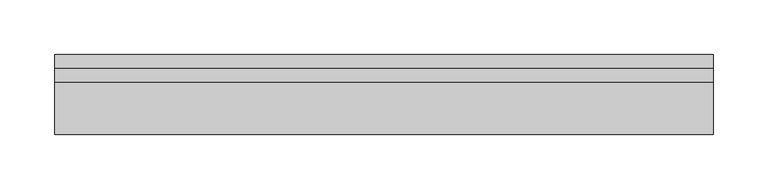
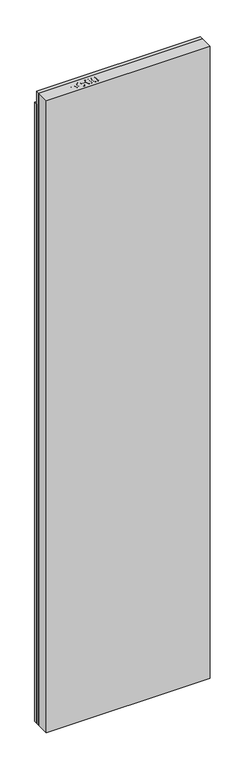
"""IFC4 building model written with IfcOpenShell, lengths in millimetres: proxy geometry, ParedeGeral_Blufab : Parede Geral - Largura 60 cm."""

from ifc_helpers import new_model, si_unit, origin, origin_with_axes, place, context, project, spatial, polyline, outline, extrude, source, transform, mapped, element, save


def generic_models_1475a357(model_context):
    return source(origin(), model_context, "Body", "SweptSolid", [
        extrude(outline(polyline([(600.0, -12.5), (0.0, -12.5), (0.0, 0.0), (600.0, 0.0), (600.0, -12.5)])), origin_with_axes(), (0.0, 0.0, 1.0), 2400.0),
        extrude(outline(polyline([(600.0, -25.0126803), (0.0, -25.0126803), (0.0, -12.5126803), (600.0, -12.5126803), (600.0, -25.0126803)])), origin_with_axes(), (0.0, 0.0, 1.0), 2450.0),
        extrude(outline(polyline([(600.0, -73.0), (0.0, -73.0), (0.0, -25.0126803), (600.0, -25.0126803), (600.0, -73.0)])), origin_with_axes(), (0.0, 0.0, 1.0), 2450.0),
        extrude(outline(polyline([(100.0857709, -33.3811762), (103.8528825, -33.3811762), (103.8528825, -45.624289), (111.5121857, -45.624289), (120.2640983, -48.2877547), (122.6884407, -54.799266), (121.7908086, -58.9085079), (119.4179697, -61.8221333), (115.7575439, -63.2311213), (111.2546683, -63.5180693), (100.0857709, -63.5180693), (100.0857709, -33.3811762)]), holes=[polyline([(103.8528825, -49.3914006), (103.8528825, -59.7509576), (111.6446232, -59.7509576), (115.4117348, -59.4934402), (117.9537994, -57.7864678), (118.921329, -54.6668285), (117.2805753, -50.7746369), (111.7329149, -49.3914006), (103.8528825, -49.3914006)])]), origin_with_axes(), (0.0, 0.0, 1.0), 2450.0),
        extrude(outline(polyline([(141.9948878, -45.1534001), (150.470889, -45.1534001), (150.470889, -39.7087465), (146.6559527, -37.6449285), (141.5019259, -36.6773989), (135.759288, -37.9613071), (131.6390096, -41.8902868), (130.2226639, -48.4569804), (131.3998863, -54.3725229), (133.3386244, -57.2751118), (136.6201318, -59.4088274), (141.4430648, -60.2218466), (145.6773866, -59.4676885), (148.6130849, -57.4590528), (150.3310938, -53.9752103), (153.8038998, -54.9537764), (151.5267103, -59.9385774), (147.3953955, -62.9184216), (141.5019259, -63.9889582), (133.5703901, -62.1421906), (128.2912835, -56.495202), (126.4555523, -48.3024699), (128.2986411, -40.2900001), (133.7580099, -34.8048795), (141.8035891, -32.9102873), (148.1936994, -34.1022249), (154.2380006, -37.655965), (154.2380006, -48.9205117), (141.9948878, -48.9205117), (141.9948878, -45.1534001)])), origin_with_axes(), (0.0, 0.0, 1.0), 2450.0),
        extrude(outline(polyline([(178.2533372, -55.512957), (175.4721493, -61.3917113), (169.5198187, -63.5180693), (161.7722238, -60.0820514), (158.4760012, -47.4489837), (161.4448089, -36.2948016), (169.1225061, -32.9102873), (174.0594825, -34.1868378), (177.480785, -37.8656577), (178.7242262, -43.0638303), (176.0828335, -50.0020848), (169.6816867, -52.6876233), (165.5650872, -51.7053784), (162.2431128, -48.6997825), (163.3136494, -55.4136289), (165.8851446, -58.8386103), (169.2843742, -59.7509576), (173.0588435, -58.1837803), (174.4862256, -55.0420681), (178.2533372, -55.512957)]), holes=[polyline([(162.2431128, -43.1226914), (164.1156322, -47.320225), (168.6736901, -48.9205117), (173.2906091, -47.320225), (174.9571146, -42.9387504), (173.2685362, -38.3622984), (168.8282005, -36.6773989), (165.4326497, -37.4904181), (163.1149931, -39.8595782), (162.2431128, -43.1226914)])]), origin_with_axes(), (0.0, 0.0, 1.0), 2450.0),
        extrude(outline(polyline([(182.0204489, -48.2068206), (185.0223659, -35.7797668), (191.9091169, -32.9102873), (197.423668, -34.5620774), (200.7014966, -39.5726302), (201.7977849, -48.2068206), (201.1135244, -55.288549), (199.3476908, -59.7472788), (196.3089856, -62.5468608), (191.9091169, -63.5180693), (186.4166387, -61.8773156), (183.1277737, -56.8777992), (182.0204489, -48.2068206)]), holes=[polyline([(185.7875605, -48.2141783), (187.6122552, -57.7349643), (191.8649711, -59.7509576), (196.3237008, -57.4627316), (198.0306733, -48.2141783), (196.2648397, -38.8662968), (191.9091169, -36.6773989), (187.5533941, -38.8589391), (185.7875605, -48.2141783)])]), origin_with_axes(), (0.0, 0.0, 1.0), 2450.0),
    ])


if __name__ == "__main__":
    model = new_model("IFC4")
    model_context = context("Model", 3, world=origin())
    ifc_project = project(units=[si_unit("LENGTHUNIT", "METRE", prefix="MILLI")], contexts=[model_context])
    site = spatial("IfcSite", under=ifc_project)
    building = spatial("IfcBuilding", under=site)
    placement = place(None, origin())
    generic_models_shape = generic_models_1475a357(model_context)
    element("IfcBuildingElementProxy", 1, Name="ParedeGeral_Blufab : Parede Geral - Largura 60 cm", ObjectType="ParedeGeral_Blufab : Parede Geral - Largura 60 cm", at=placement, inside=building, context=model_context, shape_type="MappedRepresentation", body=[
        mapped(generic_models_shape, transform((0.0, 0.0, 0.0), x_axis=(1.0, 0.0, 0.0), y_axis=(0.0, 1.0, 0.0), z_axis=(0.0, 0.0, 1.0))),
    ])
    save(model, "model.ifc")
